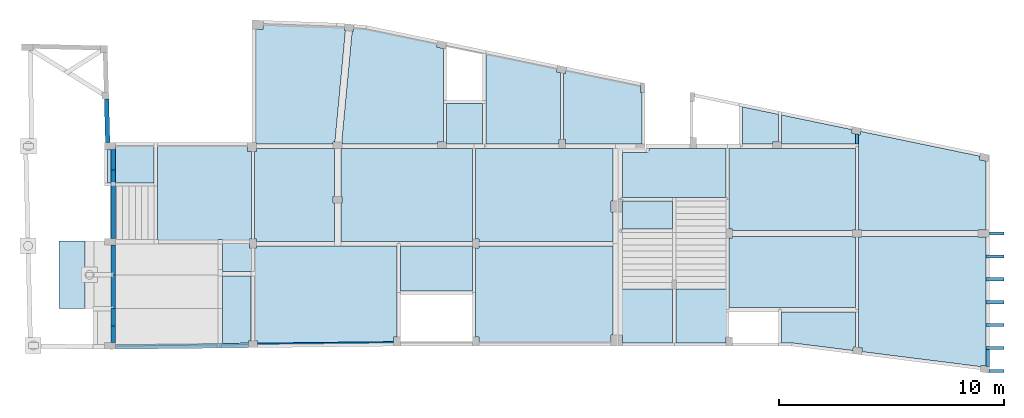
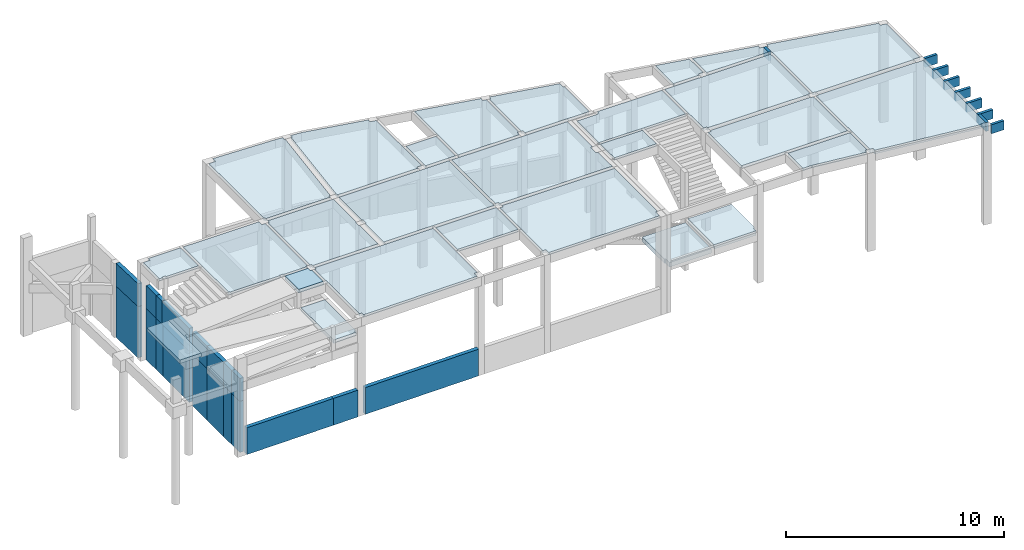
# One storey, part 5 of 8: 27 slabs, 19 walls, 9 beams.
"""IFC4 building model written with IfcOpenShell, lengths in centimetres."""

from ifc_helpers import new_model, si_unit, derived_unit, frame, origin, origin_with_axes, origin_2d_with_axis, place, context, project, spatial, polyline, rectangle, outline, extrude, material, element, save


model = new_model("IFC4")

# Units and contexts
model_context = context("Model", 3, precision=1e-05, world=origin_with_axes(), identifier="Body")
ifc_project = project(units=[si_unit("LENGTHUNIT", "METRE", prefix="CENTI"), si_unit("VOLUMEUNIT", "CUBIC_METRE"), si_unit("AREAUNIT", "SQUARE_METRE"), si_unit("POWERUNIT", "WATT"), si_unit("LUMINOUSFLUXUNIT", "LUMEN"), si_unit("ELECTRICCURRENTUNIT", "AMPERE"), si_unit("PRESSUREUNIT", "PASCAL", prefix="KILO"), si_unit("MASSUNIT", "GRAM", prefix="KILO"), si_unit("PLANEANGLEUNIT", "RADIAN"), derived_unit("VOLUMETRICFLOWRATEUNIT", [(si_unit("LENGTHUNIT", "METRE"), 3), (si_unit("TIMEUNIT", "SECOND"), -1)])], contexts=[model_context])

# Site, building, storey
site_placement = place(None, origin_with_axes())
site = spatial("IfcSite", under=ifc_project, at=site_placement)
building_placement = place(site_placement, origin())
building = spatial("IfcBuilding", under=site, at=building_placement)
placement = place(building_placement, origin_with_axes())
storey_placement = place(placement, frame((0.0, 0.0, 550.0), z_axis=(0.0, 0.0, 1.0), x_axis=(1.0, 0.0, 0.0)))
storey = spatial("IfcBuildingStorey", under=building, at=storey_placement, Name="TÉRREO", CompositionType="ELEMENT", Elevation=550.0)

# Beams
ifc_material = material(Name="Concreto")
beam_1_placement = place(storey_placement, frame((4338.1, -843.1, 0.0), z_axis=(0.0, 0.0, 1.0), x_axis=(1.0, 0.0, 0.0)))
element("IfcBeam", 1, at=beam_1_placement, inside=storey, material=ifc_material, Name="V11", context=model_context, shape_type="SolidModel", body=[
    extrude(rectangle(XDim=14.0, YDim=50.0, at=origin_2d_with_axis()), frame((-32.5, 0.0, -25.0), z_axis=(1.0, 0.0, 0.0), x_axis=(0.0, 1.0, 0.0)), (0.0, 0.0, 1.0), 65.0),
])
for number, where, z_axis, x_axis, name in (
    (2, (4331.1, -945.1, 0.0), (0.0, 0.0, 1.0), (1.0, 0.0, 0.0), "V12"),
    (3, (4331.1, -1047.15, 0.0), (0.0, 0.0, 1.0), (1.0, 0.0, 0.0), "V13"),
    (4, (4331.1, -1149.15, 0.0), (0.0, 0.0, 1.0), (1.0, 0.0, 0.0), "V16"),
    (5, (4331.1, -1251.15, 0.0), (0.0, 0.0, 1.0), (1.0, 0.0, 0.0), "V17"),
    (6, (4331.1, -1353.2, 0.0), (0.0, 0.0, 1.0), (1.0, 0.0, 0.0), "V19"),
):
    element("IfcBeam", number, at=place(storey_placement, frame(where, z_axis=z_axis, x_axis=x_axis)), inside=storey, material=ifc_material, Name=name, context=model_context, shape_type="SolidModel", body=[
        extrude(rectangle(XDim=14.0, YDim=50.0, at=origin_2d_with_axis()), frame((-39.5, 0.0, -25.0), z_axis=(1.0, 0.0, 0.0), x_axis=(0.0, 1.0, 0.0)), (0.0, 0.0, 1.0), 79.0),
    ])
beam_2_placement = place(storey_placement, frame((4337.368383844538, -1455.2, 0.0), z_axis=(0.0, 0.0, 1.0), x_axis=(1.0, 0.0, 0.0)))
element("IfcBeam", 7, at=beam_2_placement, inside=storey, material=ifc_material, Name="V20", context=model_context, shape_type="SolidModel", body=[
    extrude(rectangle(XDim=14.0, YDim=50.0, at=origin_2d_with_axis()), frame((-33.23161615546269, 0.0, -25.0), z_axis=(1.0, 0.0, 0.0), x_axis=(0.0, 1.0, 0.0)), (0.0, 0.0, 1.0), 66.46323231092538),
])
beam_3_placement = place(storey_placement, frame((3716.6, -423.21764450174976, 0.0), z_axis=(0.0, 0.0, 1.0), x_axis=(1.0, 0.0, 0.0)))
element("IfcBeam", 8, at=beam_3_placement, inside=storey, material=ifc_material, Name="V40", context=model_context, shape_type="SolidModel", body=[
    extrude(rectangle(XDim=14.0, YDim=50.0, at=origin_2d_with_axis()), frame((0.0, -22.68235549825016, -25.0), z_axis=(0.0, 1.0, 0.0), x_axis=(1.0, 0.0, 0.0)), (0.0, 0.0, 1.0), 45.36471099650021),
])
beam_4_placement = place(storey_placement, frame((4298.6, -1397.3263186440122, 0.0), z_axis=(0.0, 0.0, 1.0), x_axis=(1.0, 0.0, 0.0)))
element("IfcBeam", 9, at=beam_4_placement, inside=storey, material=ifc_material, Name="V41", context=model_context, shape_type="SolidModel", body=[
    extrude(rectangle(XDim=14.0, YDim=50.0, at=origin_2d_with_axis()), frame((0.0, -37.12631864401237, -25.0), z_axis=(0.0, 1.0, 0.0), x_axis=(1.0, 0.0, 0.0)), (0.0, 0.0, 1.0), 74.25263728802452),
])

# Slabs
slab_1_placement = place(storey_placement, frame((1239.8895, -177.539, 0.0), z_axis=(0.0, 0.0, 1.0), x_axis=(1.0, 0.0, 0.0)))
element("IfcSlab", 10, at=slab_1_placement, inside=storey, material=ifc_material, Name="L1", PredefinedType="FLOOR", context=model_context, shape_type="SolidModel", body=[
    extrude(outline(polyline([(146.11005756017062, -258.36041239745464), (153.86005756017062, -258.36041239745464), (200.3890575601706, 237.24458760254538), (195.57005756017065, 237.6585876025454), (196.93505756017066, 253.6045876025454), (160.74005756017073, 256.70858760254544), (-164.93394243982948, 268.36058760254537), (-165.88994243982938, 242.3785876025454), (-200.38994243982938, 243.6485876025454), (-200.3889424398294, -261.2614123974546), (-194.88994243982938, -261.2614123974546), (-194.8889424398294, -268.36041239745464), (146.11005756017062, -268.3614123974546), (146.11005756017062, -258.36041239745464), (146.11005756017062, -258.36041239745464)])), frame((0.000442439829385, 0.000412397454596, -15.0), z_axis=(0.0, 0.0, 1.0), x_axis=(1.0, 0.0, 0.0)), (0.0, 0.0, 1.0), 15.0),
])
slab_2_placement = place(storey_placement, frame((813.1, -663.025, 0.0), z_axis=(0.0, 0.0, 1.0), x_axis=(1.0, 0.0, 0.0)))
element("IfcSlab", 11, at=slab_2_placement, inside=storey, material=ifc_material, Name="L10", PredefinedType="FLOOR", context=model_context, shape_type="SolidModel", body=[
    extrude(outline(polyline([(59.5, -207.225), (79.5, -207.225), (79.499, -210.224), (201.452, -210.225), (201.47, -205.325), (209.6, -205.352), (209.6, 184.224), (191.9, 184.225), (191.9, 210.225), (-209.599, 210.225), (-209.6, -207.225), (-203.6, -207.225), (-203.6, -210.225), (59.5, -210.225), (59.5, -207.225), (59.5, -207.225)])), frame((0.0, 0.0, -15.0), z_axis=(0.0, 0.0, 1.0), x_axis=(1.0, 0.0, 0.0)), (0.0, 0.0, 1.0), 15.0),
])
slab_3_placement = place(storey_placement, frame((1213.8505, -672.15, 0.0), z_axis=(0.0, 0.0, 1.0), x_axis=(1.0, 0.0, 0.0)))
element("IfcSlab", 12, at=slab_3_placement, inside=storey, material=ifc_material, Name="L11", PredefinedType="FLOOR", context=model_context, shape_type="SolidModel", body=[
    extrude(outline(polyline([(177.149, -35.749), (172.15, -35.749), (172.15, -5.749), (177.15, -5.749), (177.15, 206.25), (-168.85, 206.249), (-168.85, 193.35), (-177.149, 193.35), (-177.149, -196.273), (-169.28, -196.3), (-169.314, -206.249), (177.149, -206.25), (177.149, -35.749), (177.149, -35.749)])), frame((-0.0005, 0.0, -15.0), z_axis=(0.0, 0.0, 1.0), x_axis=(1.0, 0.0, 0.0)), (0.0, 0.0, 1.0), 15.0),
])
slab_4_placement = place(storey_placement, frame((1712.7995, -672.15, 0.0), z_axis=(0.0, 0.0, 1.0), x_axis=(1.0, 0.0, 0.0)))
element("IfcSlab", 13, at=slab_4_placement, inside=storey, material=ifc_material, Name="L12", PredefinedType="FLOOR", context=model_context, shape_type="SolidModel", body=[
    extrude(outline(polyline([(-291.799, -206.25), (291.799, -206.249), (291.799, 206.25), (-291.8, 206.25), (-291.8, -5.749), (-286.8, -5.749), (-286.8, -35.749), (-291.8, -35.749), (-291.799, -206.25), (-291.799, -206.25)])), frame((0.0005, 0.0, -15.0), z_axis=(0.0, 0.0, 1.0), x_axis=(1.0, 0.0, 0.0)), (0.0, 0.0, 1.0), 15.0),
])
slab_5_placement = place(storey_placement, frame((2325.1, -672.1495, 0.0), z_axis=(0.0, 0.0, 1.0), x_axis=(1.0, 0.0, 0.0)))
element("IfcSlab", 14, at=slab_5_placement, inside=storey, material=ifc_material, Name="L13", PredefinedType="FLOOR", context=model_context, shape_type="SolidModel", body=[
    extrude(outline(polyline([(306.5, -75.95), (296.499, -75.95), (296.499, -25.95), (306.5, -25.95), (306.499, 206.25), (-306.5, 206.25), (-306.5, -196.249), (-290.5, -196.249), (-290.5, -206.249), (306.5, -206.249), (306.5, -75.95), (306.5, -75.95)])), frame((0.0, -0.0005, -15.0), z_axis=(0.0, 0.0, 1.0), x_axis=(1.0, 0.0, 0.0)), (0.0, 0.0, 1.0), 15.0),
])
slab_6_placement = place(storey_placement, frame((2903.5995, -574.9995, 0.0), z_axis=(0.0, 0.0, 1.0), x_axis=(1.0, 0.0, 0.0)))
element("IfcSlab", 15, at=slab_6_placement, inside=storey, material=ifc_material, Name="L14", PredefinedType="FLOOR", context=model_context, shape_type="SolidModel", body=[
    extrude(outline(polyline([(229.999, -109.099), (229.999, 109.1), (-112.6, 109.099), (-112.6, 98.1), (-119.6, 98.1), (-119.6, 91.1), (-230.0, 91.099), (-230.0, -109.099), (229.999, -109.099), (229.999, -109.099)])), frame((0.0005, -0.0005, -15.0), z_axis=(0.0, 0.0, 1.0), x_axis=(1.0, 0.0, 0.0)), (0.0, 0.0, 1.0), 15.0),
])
slab_7_placement = place(storey_placement, frame((3428.6, -648.2505, 0.0), z_axis=(0.0, 0.0, 1.0), x_axis=(1.0, 0.0, 0.0)))
element("IfcSlab", 16, at=slab_7_placement, inside=storey, material=ifc_material, Name="L15", PredefinedType="FLOOR", context=model_context, shape_type="SolidModel", body=[
    extrude(outline(polyline([(267.999, -179.85), (281.0, -179.849), (281.0, 182.349), (-281.0, 182.349), (-280.999, -175.35), (-265.0, -175.35), (-265.0, -182.349), (268.0, -182.35), (267.999, -179.85), (267.999, -179.85)])), frame((0.0, 0.0005, -15.0), z_axis=(0.0, 0.0, 1.0), x_axis=(1.0, 0.0, 0.0)), (0.0, 0.0, 1.0), 15.0),
])
slab_8_placement = place(storey_placement, frame((2785.0995, -761.1, 0.0), z_axis=(0.0, 0.0, 1.0), x_axis=(1.0, 0.0, 0.0)))
element("IfcSlab", 17, at=slab_8_placement, inside=storey, material=ifc_material, Name="L16", PredefinedType="FLOOR", context=model_context, shape_type="SolidModel", body=[
    extrude(outline(polyline([(111.499, 62.999), (-111.5, 62.999), (-111.499, -62.999), (111.499, -62.999), (111.499, 62.999), (111.499, 62.999)])), frame((0.0005, 0.0, -15.0), z_axis=(0.0, 0.0, 1.0), x_axis=(1.0, 0.0, 0.0)), (0.0, 0.0, 1.0), 15.0),
])
slab_9_placement = place(storey_placement, frame((1353.65, -1117.778, 0.0), z_axis=(0.0, 0.0, 1.0), x_axis=(1.0, 0.0, 0.0)))
element("IfcSlab", 18, at=slab_9_placement, inside=storey, material=ifc_material, Name="L17", PredefinedType="FLOOR", context=model_context, shape_type="SolidModel", body=[
    extrude(outline(polyline([(300.95, -212.6546721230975), (300.949, -186.32067212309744), (316.949, -186.32167212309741), (316.95, 219.37732787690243), (-309.184, 219.37832787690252), (-309.219, 209.32732787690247), (-316.95, 209.35332787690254), (-316.949, -203.2216721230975), (-303.949, -203.2216721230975), (-303.95, -219.37767212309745), (300.95, -212.6546721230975), (300.95, -212.6546721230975)])), frame((0.0, -0.000327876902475, -15.0), z_axis=(0.0, 0.0, 1.0), x_axis=(1.0, 0.0, 0.0)), (0.0, 0.0, 1.0), 15.0),
])
slab_10_placement = place(storey_placement, frame((1844.6, -999.1495, 0.0), z_axis=(0.0, 0.0, 1.0), x_axis=(1.0, 0.0, 0.0)))
element("IfcSlab", 19, at=slab_10_placement, inside=storey, material=ifc_material, Name="L18", PredefinedType="FLOOR", context=model_context, shape_type="SolidModel", body=[
    extrude(outline(polyline([(160.0, -100.749), (159.999, 100.75), (-160.0, 100.749), (-160.0, -100.749), (160.0, -100.749), (160.0, -100.749)])), frame((0.0, -0.0005, -15.0), z_axis=(0.0, 0.0, 1.0), x_axis=(1.0, 0.0, 0.0)), (0.0, 0.0, 1.0), 15.0),
])
slab_11_placement = place(storey_placement, frame((2325.1, -1114.25, 0.0), z_axis=(0.0, 0.0, 1.0), x_axis=(1.0, 0.0, 0.0)))
element("IfcSlab", 20, at=slab_11_placement, inside=storey, material=ifc_material, Name="L19", PredefinedType="FLOOR", context=model_context, shape_type="SolidModel", body=[
    extrude(outline(polyline([(296.499, -179.849), (306.5, -179.849), (306.499, 215.85), (-290.5, 215.85), (-290.5, 205.85), (-306.5, 205.85), (-306.499, -189.85), (-290.5, -189.849), (-290.5, -215.849), (296.499, -215.85), (296.499, -179.849), (296.499, -179.849)])), frame((0.0, 0.0, -15.0), z_axis=(0.0, 0.0, 1.0), x_axis=(1.0, 0.0, 0.0)), (0.0, 0.0, 1.0), 15.0),
])
slab_12_placement = place(storey_placement, frame((1650.4455, -186.618, 0.0), z_axis=(0.0, 0.0, 1.0), x_axis=(1.0, 0.0, 0.0)))
element("IfcSlab", 21, at=slab_12_placement, inside=storey, material=ifc_material, Name="L2", PredefinedType="FLOOR", context=model_context, shape_type="SolidModel", body=[
    extrude(outline(polyline([(200.5546434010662, -259.281310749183), (200.5546434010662, -249.28131074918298), (226.5546434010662, -249.28131074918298), (226.5546434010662, 166.466689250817), (195.3046434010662, 172.93768925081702), (198.54564340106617, 188.59868925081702), (-118.47435659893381, 254.56368925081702), (-173.76235659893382, 259.281689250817), (-175.13535659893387, 243.317689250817), (-180.26535659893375, 243.757689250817), (-226.55435659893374, -249.28131074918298), (-224.4453565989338, -249.28131074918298), (-224.4453565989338, -259.28231074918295), (200.5546434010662, -259.281310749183), (200.5546434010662, -259.281310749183)])), frame((-0.000143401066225, 0.000310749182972, -15.0), z_axis=(0.0, 0.0, 1.0), x_axis=(1.0, 0.0, 0.0)), (0.0, 0.0, 1.0), 15.0),
])
slab_13_placement = place(storey_placement, frame((3428.615, -1013.75, 0.0), z_axis=(0.0, 0.0, 1.0), x_axis=(1.0, 0.0, 0.0)))
element("IfcSlab", 22, at=slab_13_placement, inside=storey, material=ifc_material, Name="L20", PredefinedType="FLOOR", context=model_context, shape_type="SolidModel", body=[
    extrude(outline(polyline([(280.98545899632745, 155.649), (267.9844589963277, 155.649), (267.9844589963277, 158.15), (-265.01454100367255, 158.15), (-265.01454100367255, 150.149), (-281.01354100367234, 150.149), (-281.01354100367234, -158.15), (281.01445899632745, -158.15), (280.98545899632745, 155.649), (280.98545899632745, 155.649)])), frame((-0.000458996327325, 0.0, -15.0), z_axis=(0.0, 0.0, 1.0), x_axis=(1.0, 0.0, 0.0)), (0.0, 0.0, 1.0), 15.0),
])
slab_14_placement = place(storey_placement, frame((4007.6005, -1145.658, 0.0), z_axis=(0.0, 0.0, 1.0), x_axis=(1.0, 0.0, 0.0)))
element("IfcSlab", 23, at=slab_14_placement, inside=storey, material=ifc_material, Name="L21", PredefinedType="FLOOR", context=model_context, shape_type="SolidModel", body=[
    extrude(outline(polyline([(260.32986230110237, -284.03187217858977), (283.99986230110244, -287.0258721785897), (283.99986230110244, 287.55812782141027), (247.99986230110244, 287.55812782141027), (247.99886230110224, 290.0571278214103), (-270.9991376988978, 290.05812782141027), (-271.000137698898, 287.55812782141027), (-283.9991376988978, 287.55812782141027), (-283.96913769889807, -36.2418721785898), (-283.9991376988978, -205.52587217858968), (-267.4001376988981, -207.6208721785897), (-269.4071376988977, -223.51687217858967), (259.56786230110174, -290.0578721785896), (260.32986230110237, -284.03187217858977), (260.32986230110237, -284.03187217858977)])), frame((-0.000362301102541, -0.000127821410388, -22.0), z_axis=(0.0, 0.0, 1.0), x_axis=(1.0, 0.0, 0.0)), (0.0, 0.0, 1.0), 22.0),
])
slab_15_placement = place(storey_placement, frame((3545.6145, -1278.043, 0.0), z_axis=(0.0, 0.0, 1.0), x_axis=(1.0, 0.0, 0.0)))
element("IfcSlab", 24, at=slab_15_placement, inside=storey, material=ifc_material, Name="L22", PredefinedType="FLOOR", context=model_context, shape_type="SolidModel", body=[
    extrude(outline(polyline([(154.90487966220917, -70.22568124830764), (163.98587966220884, -71.37268124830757), (164.0138796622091, 86.14331875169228), (-164.01312033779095, 86.14331875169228), (-164.01312033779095, -52.014681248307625), (-119.21312033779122, -52.00568124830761), (-119.21312033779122, -59.00568124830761), (-118.34412033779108, -52.055681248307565), (152.89487966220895, -86.14268124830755), (154.90487966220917, -70.22568124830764), (154.90487966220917, -70.22568124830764)])), frame((-0.00037966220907, -0.000318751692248, -15.0), z_axis=(0.0, 0.0, 1.0), x_axis=(1.0, 0.0, 0.0)), (0.0, 0.0, 1.0), 15.0),
])
slab_16_placement = place(storey_placement, frame((2231.25, -244.369, 0.0), z_axis=(0.0, 0.0, 1.0), x_axis=(1.0, 0.0, 0.0)))
element("IfcSlab", 25, at=slab_16_placement, inside=storey, material=ifc_material, Name="L3", PredefinedType="FLOOR", context=model_context, shape_type="SolidModel", body=[
    extrude(outline(polyline([(158.25, -181.53013458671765), (166.249, -181.53113458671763), (166.25, 116.16186541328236), (147.84, 120.00886541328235), (151.106, 135.65686541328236), (-166.249, 201.53086541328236), (-166.25, -201.53113458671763), (158.25, -201.53113458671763), (158.25, -181.53013458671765), (158.25, -181.53013458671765)])), frame((0.0, 0.000134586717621, -15.0), z_axis=(0.0, 0.0, 1.0), x_axis=(1.0, 0.0, 0.0)), (0.0, 0.0, 1.0), 15.0),
])
slab_17_placement = place(storey_placement, frame((2585.25, -281.3705, 0.0), z_axis=(0.0, 0.0, 1.0), x_axis=(1.0, 0.0, 0.0)))
element("IfcSlab", 26, at=slab_17_placement, inside=storey, material=ifc_material, Name="L4", PredefinedType="FLOOR", context=model_context, shape_type="SolidModel", body=[
    extrude(outline(polyline([(173.75, 65.87931638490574), (167.75, 65.87931638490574), (167.749, 95.73031638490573), (-163.727, 164.5293163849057), (-167.01, 148.83031638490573), (-173.75, 150.23831638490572), (-173.75, -144.52868361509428), (-165.75, -144.52868361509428), (-165.749, -164.52968361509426), (173.75, -164.52968361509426), (173.75, 65.87931638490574), (173.75, 65.87931638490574)])), frame((0.0, 0.000183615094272, -15.0), z_axis=(0.0, 0.0, 1.0), x_axis=(1.0, 0.0, 0.0)), (0.0, 0.0, 1.0), 15.0),
])
slab_18_placement = place(storey_placement, frame((1971.0, -355.9, 0.0), z_axis=(0.0, 0.0, 1.0), x_axis=(1.0, 0.0, 0.0)))
element("IfcSlab", 27, at=slab_18_placement, inside=storey, material=ifc_material, Name="L5", PredefinedType="FLOOR", context=model_context, shape_type="SolidModel", body=[
    extrude(outline(polyline([(-80.0, -90.0), (80.0, -89.999), (80.0, 90.0), (-80.0, 90.0), (-80.0, -90.0), (-80.0, -90.0)])), frame((0.0, 0.0, -15.0), z_axis=(0.0, 0.0, 1.0), x_axis=(1.0, 0.0, 0.0)), (0.0, 0.0, 1.0), 15.0),
])
slab_19_placement = place(storey_placement, frame((3286.7995, -362.779, 0.0), z_axis=(0.0, 0.0, 1.0), x_axis=(1.0, 0.0, 0.0)))
element("IfcSlab", 28, at=slab_19_placement, inside=storey, material=ifc_material, Name="L6", PredefinedType="FLOOR", context=model_context, shape_type="SolidModel", body=[
    extrude(outline(polyline([(54.799, -73.12011332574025), (80.799, -73.12011332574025), (80.799, 49.576886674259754), (-80.8, 83.12088667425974), (-80.8, -83.12111332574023), (54.799, -83.12111332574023), (54.799, -73.12011332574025), (54.799, -73.12011332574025)])), frame((0.0005, 0.000113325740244, -15.0), z_axis=(0.0, 0.0, 1.0), x_axis=(1.0, 0.0, 0.0)), (0.0, 0.0, 1.0), 15.0),
])
slab_20_placement = place(storey_placement, frame((3545.5995, -381.0035, 0.0), z_axis=(0.0, 0.0, 1.0), x_axis=(1.0, 0.0, 0.0)))
element("IfcSlab", 29, at=slab_20_placement, inside=storey, material=ifc_material, Name="L7", PredefinedType="FLOOR", context=model_context, shape_type="SolidModel", body=[
    extrude(outline(polyline([(163.999, -19.535052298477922), (145.289, -15.625052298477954), (148.554, 0.01294770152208), (-163.999, 64.89594770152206), (-164.0, -64.89505229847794), (163.999, -64.89505229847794), (163.999, -19.535052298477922), (163.999, -19.535052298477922)])), frame((0.0005, -0.000447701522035, -15.0), z_axis=(0.0, 0.0, 1.0), x_axis=(1.0, 0.0, 0.0)), (0.0, 0.0, 1.0), 15.0),
])
slab_21_placement = place(storey_placement, frame((4007.6, -609.8605, 0.0), z_axis=(0.0, 0.0, 1.0), x_axis=(1.0, 0.0, 0.0)))
element("IfcSlab", 30, at=slab_21_placement, inside=storey, material=ifc_material, Name="L8", PredefinedType="FLOOR", context=model_context, shape_type="SolidModel", body=[
    extrude(outline(polyline([(248.0, -218.23990537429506), (283.999, -218.23990537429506), (284.0, 88.53309462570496), (252.71, 95.070094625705), (255.975, 110.68909462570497), (-274.279, 220.73909462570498), (-277.56, 205.05009462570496), (-284.0, 206.39509462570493), (-283.999, -218.23890537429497), (-271.0, -218.23990537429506), (-270.999, -220.73990537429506), (247.999, -220.73990537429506), (248.0, -218.23990537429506), (248.0, -218.23990537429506)])), frame((0.0, 0.000405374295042, -15.0), z_axis=(0.0, 0.0, 1.0), x_axis=(1.0, 0.0, 0.0)), (0.0, 0.0, 1.0), 15.0),
])
slab_22_placement = place(storey_placement, frame((485.625, -535.8255, 0.0), z_axis=(0.0, 0.0, 1.0), x_axis=(1.0, 0.0, 0.0)))
element("IfcSlab", 31, at=slab_22_placement, inside=storey, material=ifc_material, Name="L9", PredefinedType="FLOOR", context=model_context, shape_type="SolidModel", body=[
    extrude(outline(polyline([(103.874, 83.024), (-67.875, 83.024), (-67.875, 67.024), (-103.874, 67.024), (-103.874, -83.025), (-87.875, -83.024), (-87.875, -77.025), (-67.875, -77.025), (-67.875, -83.025), (103.874, -83.025), (103.874, 83.024), (103.874, 83.024)])), frame((0.0, 0.0005, -15.0), z_axis=(0.0, 0.0, 1.0), x_axis=(1.0, 0.0, 0.0)), (0.0, 0.0, 1.0), 15.0),
])
slab_23_placement = place(storey_placement, frame((957.65, -950.075, 0.0), z_axis=(0.0, 0.0, 1.0), x_axis=(1.0, 0.0, 0.0)))
element("IfcSlab", 32, at=slab_23_placement, inside=storey, material=ifc_material, Name="LE11", PredefinedType="LANDING", context=model_context, shape_type="SolidModel", body=[
    extrude(outline(polyline([(65.05, 41.697), (56.779, 41.724), (56.853, 62.824), (-65.05, 62.825), (-65.049, -62.825), (65.05, -62.825), (65.05, 41.697), (65.05, 41.697)])), frame((0.0, 0.0, -20.0), z_axis=(0.0, 0.0, 1.0), x_axis=(1.0, 0.0, 0.0)), (0.0, 0.0, 1.0), 20.0),
])
slab_24_placement = place(storey_placement, frame((2782.5995, -1210.0995, -280.7), z_axis=(0.0, 0.0, 1.0), x_axis=(1.0, 0.0, 0.0)))
element("IfcSlab", 33, at=slab_24_placement, inside=storey, material=ifc_material, Name="LE2", PredefinedType="LANDING", context=model_context, shape_type="SolidModel", body=[
    extrude(outline(polyline([(113.999, 120.0), (-114.0, 120.0), (-114.0, -83.999), (-109.0, -83.999), (-109.0, -119.999), (113.999, -119.999), (113.999, 120.0), (113.999, 120.0)])), frame((0.0005, -0.0005, -25.0), z_axis=(0.0, 0.0, 1.0), x_axis=(1.0, 0.0, 0.0)), (0.0, 0.0, 1.0), 25.0),
])
slab_25_placement = place(storey_placement, frame((3025.6, -1210.1, -263.0), z_axis=(0.0, 0.0, 1.0), x_axis=(1.0, 0.0, 0.0)))
element("IfcSlab", 34, at=slab_25_placement, inside=storey, material=ifc_material, Name="LE3", PredefinedType="LANDING", context=model_context, shape_type="SolidModel", body=[
    extrude(outline(polyline([(107.999, -119.999), (107.999, -93.999), (115.0, -93.999), (114.999, 120.0), (-115.0, 120.0), (-114.999, -120.0), (107.999, -119.999), (107.999, -119.999)])), frame((0.0, 0.0, -25.0), z_axis=(0.0, 0.0, 1.0), x_axis=(1.0, 0.0, 0.0)), (0.0, 0.0, 1.0), 25.0),
])
slab_26_placement = place(storey_placement, frame((956.0505, -1182.904, -89.0), z_axis=(0.0, 0.0, 1.0), x_axis=(1.0, 0.0, 0.0)))
element("IfcSlab", 35, at=slab_26_placement, inside=storey, material=ifc_material, Name="LE6", PredefinedType="LANDING", context=model_context, shape_type="SolidModel", body=[
    extrude(outline(polyline([(53.65, -148.09352665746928), (53.65, -138.09552665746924), (63.45, -138.09552665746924), (63.45, 150.00447334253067), (-63.449, 150.0034733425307), (-63.449, -150.00352665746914), (53.65, -148.09352665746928), (53.65, -148.09352665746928)])), frame((-0.0005, -0.000473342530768, -20.0), z_axis=(0.0, 0.0, 1.0), x_axis=(1.0, 0.0, 0.0)), (0.0, 0.0, 1.0), 20.0),
])
slab_27_placement = place(storey_placement, frame((226.6, -1027.35, -42.0), z_axis=(0.0, 0.0, 1.0), x_axis=(1.0, 0.0, 0.0)))
element("IfcSlab", 36, at=slab_27_placement, inside=storey, material=ifc_material, Name="LE8", PredefinedType="LANDING", context=model_context, shape_type="SolidModel", body=[
    extrude(outline(polyline([(55.0, -6.999), (60.0, -7.0), (60.0, 6.999), (55.0, 6.999), (55.0, 150.499), (-60.0, 150.499), (-60.0, -150.499), (55.0, -150.499), (55.0, -6.999), (55.0, -6.999)])), frame((0.0, 0.0, -20.0), z_axis=(0.0, 0.0, 1.0), x_axis=(1.0, 0.0, 0.0)), (0.0, 0.0, 1.0), 20.0),
])

# Walls
wall_1_placement = place(storey_placement, frame((648.675, -1345.63, -400.0), z_axis=(0.0, 0.0, 1.0), x_axis=(1.0, 0.0, 0.0)))
element("IfcWall", 37, at=wall_1_placement, inside=storey, material=ifc_material, Name="PAR4-A", PredefinedType="SHEAR", context=model_context, shape_type="SolidModel", body=[
    extrude(rectangle(XDim=20.0, YDim=150.0, at=origin_2d_with_axis()), frame((-230.925, -2.57, -75.0), z_axis=(1.0, 0.011128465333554, 0.0), x_axis=(0.011128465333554, -1.0, 0.0)), (0.0, 0.0, 1.0), 461.8786816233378),
    extrude(rectangle(XDim=20.0, YDim=50.0, at=origin_2d_with_axis()), frame((-230.925, -2.57, -25.0), z_axis=(1.0, 0.011128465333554, 0.0), x_axis=(0.011128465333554, -1.0, 0.0)), (0.0, 0.0, 1.0), 461.8786010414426),
])
wall_2_placement = place(storey_placement, frame((944.65, -1342.335, -400.0), z_axis=(0.0, 0.0, 1.0), x_axis=(1.0, 0.0, 0.0)))
element("IfcWall", 38, at=wall_2_placement, inside=storey, material=ifc_material, Name="PAR4-B", PredefinedType="SHEAR", context=model_context, shape_type="SolidModel", body=[
    extrude(rectangle(XDim=20.0, YDim=150.0, at=origin_2d_with_axis()), frame((-65.05008057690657, -0.725000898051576, -75.0), z_axis=(1.0, 0.011144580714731, 0.0), x_axis=(0.011144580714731, -1.0, 0.0)), (0.0, 0.0, 1.0), 130.10816065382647),
    extrude(rectangle(XDim=20.0, YDim=50.0, at=origin_2d_with_axis()), frame((-65.05, -0.725, -25.0), z_axis=(1.0, 0.01114458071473, 0.0), x_axis=(0.01114458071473, -1.0, 0.0)), (0.0, 0.0, 1.0), 130.10808007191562),
])
wall_3_placement = place(storey_placement, frame((1352.15, -1337.8, -400.0), z_axis=(0.0, 0.0, 1.0), x_axis=(1.0, 0.0, 0.0)))
element("IfcWall", 39, at=wall_3_placement, inside=storey, material=ifc_material, Name="PAR4-C", PredefinedType="SHEAR", context=model_context, shape_type="SolidModel", body=[
    extrude(rectangle(XDim=20.0, YDim=150.0, at=origin_2d_with_axis()), frame((-302.45, -3.37, -75.0), z_axis=(1.0, 0.011141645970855, 0.0), x_axis=(0.011141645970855, -1.0, 0.0)), (0.0, 0.0, 1.0), 604.9375485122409),
    extrude(rectangle(XDim=20.0, YDim=50.0, at=origin_2d_with_axis()), frame((-302.45, -3.37, -25.0), z_axis=(1.0, 0.011141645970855, 0.0), x_axis=(0.011141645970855, -1.0, 0.0)), (0.0, 0.0, 1.0), 604.9375485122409),
])
wall_4_placement = place(storey_placement, frame((407.75, -961.125, -263.0), z_axis=(0.0, 0.0, 1.0), x_axis=(1.0, 0.0, 0.0)))
element("IfcWall", 40, at=wall_4_placement, inside=storey, material=ifc_material, Name="PAR6-A", PredefinedType="SHEAR", context=model_context, shape_type="SolidModel", body=[
    extrude(rectangle(XDim=20.0, YDim=287.0, at=origin_2d_with_axis()), frame((0.0, 66.225, -143.5), z_axis=(0.0, -1.0, 0.0), x_axis=(1.0, 0.0, 0.0)), (0.0, 0.0, 1.0), 132.45),
])
wall_5_placement = place(storey_placement, frame((407.75, -961.125, -135.0), z_axis=(0.0, 0.0, 1.0), x_axis=(1.0, 0.0, 0.0)))
element("IfcWall", 41, at=wall_5_placement, inside=storey, material=ifc_material, Name="PAR6-A", PredefinedType="SHEAR", context=model_context, shape_type="SolidModel", body=[
    extrude(rectangle(XDim=20.0, YDim=128.0, at=origin_2d_with_axis()), frame((0.0, 66.225, -64.0), z_axis=(0.0, -1.0, 0.0), x_axis=(1.0, 0.0, 0.0)), (0.0, 0.0, 1.0), 132.45),
    extrude(rectangle(XDim=20.0, YDim=50.0, at=origin_2d_with_axis()), frame((0.0, 66.225, -25.0), z_axis=(0.0, -1.0, 0.0), x_axis=(1.0, 0.0, 0.0)), (0.0, 0.0, 1.0), 132.45),
])
wall_6_placement = place(storey_placement, frame((407.75, -1102.575, -263.0), z_axis=(0.0, 0.0, 1.0), x_axis=(1.0, 0.0, 0.0)))
element("IfcWall", 42, at=wall_6_placement, inside=storey, material=ifc_material, Name="PAR6-B", PredefinedType="SHEAR", context=model_context, shape_type="SolidModel", body=[
    extrude(rectangle(XDim=20.0, YDim=287.0, at=origin_2d_with_axis()), frame((0.0, 75.225, -143.5), z_axis=(0.0, -1.0, 0.0), x_axis=(1.0, 0.0, 0.0)), (0.0, 0.0, 1.0), 150.45),
])
wall_7_placement = place(storey_placement, frame((407.75, -1102.6, -135.0), z_axis=(0.0, 0.0, 1.0), x_axis=(1.0, 0.0, 0.0)))
element("IfcWall", 43, at=wall_7_placement, inside=storey, material=ifc_material, Name="PAR6-B", PredefinedType="SHEAR", context=model_context, shape_type="SolidModel", body=[
    extrude(rectangle(XDim=20.0, YDim=128.0, at=origin_2d_with_axis()), frame((0.0, 75.25, -64.0), z_axis=(0.0, -1.0, 0.0), x_axis=(1.0, 0.0, 0.0)), (0.0, 0.0, 1.0), 150.5),
    extrude(rectangle(XDim=20.0, YDim=50.0, at=origin_2d_with_axis()), frame((0.0, 75.25, -25.0), z_axis=(0.0, -1.0, 0.0), x_axis=(1.0, 0.0, 0.0)), (0.0, 0.0, 1.0), 150.5),
])
wall_8_placement = place(storey_placement, frame((407.75, -1215.81, -263.0), z_axis=(0.0, 0.0, 1.0), x_axis=(1.0, 0.0, 0.0)))
element("IfcWall", 44, at=wall_8_placement, inside=storey, material=ifc_material, Name="PAR6-C", PredefinedType="SHEAR", context=model_context, shape_type="SolidModel", body=[
    extrude(rectangle(XDim=20.0, YDim=287.0, at=origin_2d_with_axis()), frame((0.0, 38.01, -143.5), z_axis=(0.0, -1.0, 0.0), x_axis=(1.0, 0.0, 0.0)), (0.0, 0.0, 1.0), 76.02),
])
wall_9_placement = place(storey_placement, frame((407.75, -1215.835, -135.0), z_axis=(0.0, 0.0, 1.0), x_axis=(1.0, 0.0, 0.0)))
element("IfcWall", 45, at=wall_9_placement, inside=storey, material=ifc_material, Name="PAR6-C", PredefinedType="SHEAR", context=model_context, shape_type="SolidModel", body=[
    extrude(rectangle(XDim=20.0, YDim=128.0, at=origin_2d_with_axis()), frame((0.0, 37.985, -64.0), z_axis=(0.0, -1.0, 0.0), x_axis=(1.0, 0.0, 0.0)), (0.0, 0.0, 1.0), 75.97),
    extrude(rectangle(XDim=20.0, YDim=50.0, at=origin_2d_with_axis()), frame((0.0, 37.985, -25.0), z_axis=(0.0, -1.0, 0.0), x_axis=(1.0, 0.0, 0.0)), (0.0, 0.0, 1.0), 75.97),
])
wall_10_placement = place(storey_placement, frame((407.75, -1291.01, -135.0), z_axis=(0.0, 0.0, 1.0), x_axis=(1.0, 0.0, 0.0)))
element("IfcWall", 46, at=wall_10_placement, inside=storey, material=ifc_material, Name="PAR6-D", PredefinedType="SHEAR", context=model_context, shape_type="SolidModel", body=[
    extrude(rectangle(XDim=20.0, YDim=128.0, at=origin_2d_with_axis()), frame((0.0, 37.19, -64.0), z_axis=(0.0, -1.0, 0.0), x_axis=(1.0, 0.0, 0.0)), (0.0, 0.0, 1.0), 74.38),
    extrude(rectangle(XDim=20.0, YDim=50.0, at=origin_2d_with_axis()), frame((0.0, 37.19, -25.0), z_axis=(0.0, -1.0, 0.0), x_axis=(1.0, 0.0, 0.0)), (0.0, 0.0, 1.0), 74.38),
])
wall_11_placement = place(storey_placement, frame((407.75, -1291.01, -263.0), z_axis=(0.0, 0.0, 1.0), x_axis=(1.0, 0.0, 0.0)))
element("IfcWall", 47, at=wall_11_placement, inside=storey, material=ifc_material, Name="PAR6-D", PredefinedType="SHEAR", context=model_context, shape_type="SolidModel", body=[
    extrude(rectangle(XDim=20.0, YDim=287.0, at=origin_2d_with_axis()), frame((0.0, 37.19, -143.5), z_axis=(0.0, -1.0, 0.0), x_axis=(1.0, 0.0, 0.0)), (0.0, 0.0, 1.0), 74.38),
])
wall_12_placement = place(storey_placement, frame((407.75, -514.55, -263.0), z_axis=(0.0, 0.0, 1.0), x_axis=(1.0, 0.0, 0.0)))
element("IfcWall", 48, at=wall_12_placement, inside=storey, material=ifc_material, Name="PAR7-A", PredefinedType="SHEAR", context=model_context, shape_type="SolidModel", body=[
    extrude(rectangle(XDim=20.0, YDim=287.0, at=origin_2d_with_axis()), frame((0.0, 45.75, -143.5), z_axis=(0.0, -1.0, 0.0), x_axis=(1.0, 0.0, 0.0)), (0.0, 0.0, 1.0), 91.5),
])
wall_13_placement = place(storey_placement, frame((407.75, -514.55, -135.0), z_axis=(0.0, 0.0, 1.0), x_axis=(1.0, 0.0, 0.0)))
element("IfcWall", 49, at=wall_13_placement, inside=storey, material=ifc_material, Name="PAR7-A", PredefinedType="SHEAR", context=model_context, shape_type="SolidModel", body=[
    extrude(rectangle(XDim=20.0, YDim=128.0, at=origin_2d_with_axis()), frame((0.0, 45.75, -64.0), z_axis=(0.0, -1.0, 0.0), x_axis=(1.0, 0.0, 0.0)), (0.0, 0.0, 1.0), 91.5),
    extrude(rectangle(XDim=20.0, YDim=50.0, at=origin_2d_with_axis()), frame((0.0, 45.75, -25.0), z_axis=(0.0, -1.0, 0.0), x_axis=(1.0, 0.0, 0.0)), (0.0, 0.0, 1.0), 91.5),
])
wall_14_placement = place(storey_placement, frame((407.75, -586.575, -135.0), z_axis=(0.0, 0.0, 1.0), x_axis=(1.0, 0.0, 0.0)))
element("IfcWall", 50, at=wall_14_placement, inside=storey, material=ifc_material, Name="PAR7-B", PredefinedType="SHEAR", context=model_context, shape_type="SolidModel", body=[
    extrude(rectangle(XDim=20.0, YDim=128.0, at=origin_2d_with_axis()), frame((0.0, 26.275, -64.0), z_axis=(0.0, -1.0, 0.0), x_axis=(1.0, 0.0, 0.0)), (0.0, 0.0, 1.0), 52.55),
    extrude(rectangle(XDim=20.0, YDim=50.0, at=origin_2d_with_axis()), frame((0.0, 26.275, -25.0), z_axis=(0.0, -1.0, 0.0), x_axis=(1.0, 0.0, 0.0)), (0.0, 0.0, 1.0), 52.55),
])
wall_15_placement = place(storey_placement, frame((407.75, -591.575, -263.0), z_axis=(0.0, 0.0, 1.0), x_axis=(1.0, 0.0, 0.0)))
element("IfcWall", 51, at=wall_15_placement, inside=storey, material=ifc_material, Name="PAR7-B", PredefinedType="SHEAR", context=model_context, shape_type="SolidModel", body=[
    extrude(rectangle(XDim=20.0, YDim=287.0, at=origin_2d_with_axis()), frame((0.0, 31.275, -143.5), z_axis=(0.0, -1.0, 0.0), x_axis=(1.0, 0.0, 0.0)), (0.0, 0.0, 1.0), 62.55),
])
wall_16_placement = place(storey_placement, frame((407.75, -738.875, -135.0), z_axis=(0.0, 0.0, 1.0), x_axis=(1.0, 0.0, 0.0)))
element("IfcWall", 52, at=wall_16_placement, inside=storey, material=ifc_material, Name="PAR7-C", PredefinedType="SHEAR", context=model_context, shape_type="SolidModel", body=[
    extrude(rectangle(XDim=20.0, YDim=128.0, at=origin_2d_with_axis()), frame((0.0, 126.025, -64.0), z_axis=(0.0, -1.0, 0.0), x_axis=(1.0, 0.0, 0.0)), (0.0, 0.0, 1.0), 252.05),
    extrude(rectangle(XDim=20.0, YDim=50.0, at=origin_2d_with_axis()), frame((0.0, 106.025, -25.0), z_axis=(0.0, -1.0, 0.0), x_axis=(1.0, 0.0, 0.0)), (0.0, 0.0, 1.0), 232.05),
])
wall_17_placement = place(storey_placement, frame((407.75, -743.875, -263.0), z_axis=(0.0, 0.0, 1.0), x_axis=(1.0, 0.0, 0.0)))
element("IfcWall", 53, at=wall_17_placement, inside=storey, material=ifc_material, Name="PAR7-C", PredefinedType="SHEAR", context=model_context, shape_type="SolidModel", body=[
    extrude(rectangle(XDim=20.0, YDim=287.0, at=origin_2d_with_axis()), frame((0.0, 121.025, -143.5), z_axis=(0.0, -1.0, 0.0), x_axis=(1.0, 0.0, 0.0)), (0.0, 0.0, 1.0), 242.05),
])
wall_18_placement = place(storey_placement, frame((379.885, -341.89, -263.0), z_axis=(0.0, 0.0, 1.0), x_axis=(1.0, 0.0, 0.0)))
element("IfcWall", 54, at=wall_18_placement, inside=storey, material=ifc_material, Name="PAR8-B", PredefinedType="SHEAR", context=model_context, shape_type="SolidModel", body=[
    extrude(rectangle(XDim=20.0, YDim=287.0, at=origin_2d_with_axis()), frame((-2.595, 96.91, -143.5), z_axis=(0.026767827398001, -0.999641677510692, 0.0), x_axis=(0.999641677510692, 0.026767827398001, 0.0)), (0.0, 0.0, 1.0), 193.88947495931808),
])
wall_19_placement = place(storey_placement, frame((379.885, -341.89, -135.0), z_axis=(0.0, 0.0, 1.0), x_axis=(1.0, 0.0, 0.0)))
element("IfcWall", 55, at=wall_19_placement, inside=storey, material=ifc_material, Name="PAR8-B", PredefinedType="SHEAR", context=model_context, shape_type="SolidModel", body=[
    extrude(rectangle(XDim=20.0, YDim=128.0, at=origin_2d_with_axis()), frame((-2.595, 96.91, -64.0), z_axis=(0.026767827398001, -0.999641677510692, 0.0), x_axis=(0.999641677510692, 0.026767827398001, 0.0)), (0.0, 0.0, 1.0), 193.88947495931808),
    extrude(rectangle(XDim=20.0, YDim=50.0, at=origin_2d_with_axis()), frame((-2.595, 96.91, -25.0), z_axis=(0.026767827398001, -0.999641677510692, 0.0), x_axis=(0.999641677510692, 0.026767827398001, 0.0)), (0.0, 0.0, 1.0), 193.88947495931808),
])

save(model, "model.ifc")
